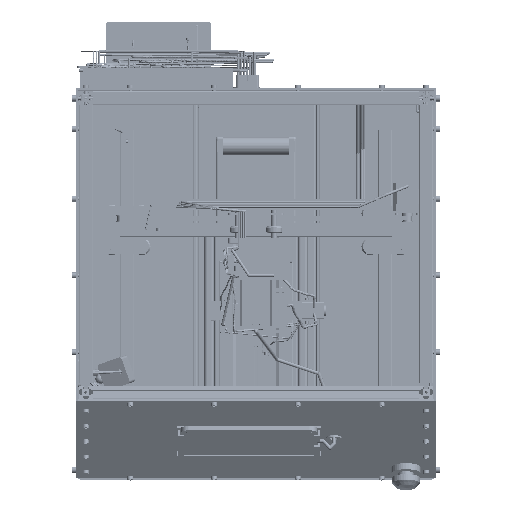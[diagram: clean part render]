
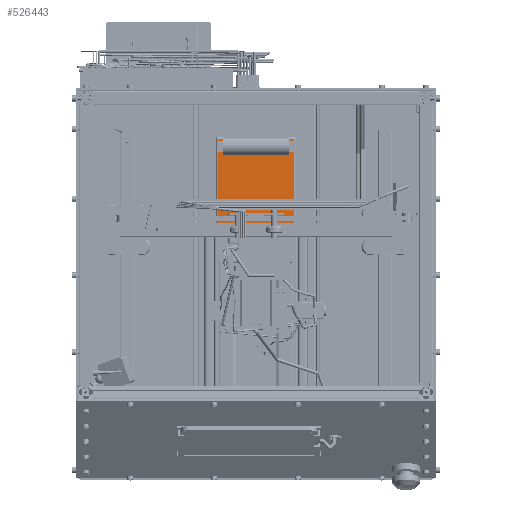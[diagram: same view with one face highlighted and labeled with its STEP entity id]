
A CAD part, top view. The second image highlights one B-rep face of the part: STEP entity #526443.
In plain terms, the highlighted planar face has unit normal (0, 0, 1).
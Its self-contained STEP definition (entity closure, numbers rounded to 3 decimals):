
#525852 = CYLINDRICAL_SURFACE('',#525853,4.);
#525853 = AXIS2_PLACEMENT_3D('',#525854,#525855,#525856);
#525854 = CARTESIAN_POINT('',(-54.,60.,32.));
#525855 = DIRECTION('',(0.,1.,0.));
#525856 = DIRECTION('',(-1.,0.,0.));
#526039 = VERTEX_POINT('',#526040);
#526040 = CARTESIAN_POINT('',(-54.,64.,36.));
#526062 = EDGE_CURVE('',#526039,#526063,#526065,.T.);
#526063 = VERTEX_POINT('',#526064);
#526064 = CARTESIAN_POINT('',(-54.,186.,36.));
#526065 = SURFACE_CURVE('',#526066,(#526070,#526077),.PCURVE_S1.);
#526066 = LINE('',#526067,#526068);
#526067 = CARTESIAN_POINT('',(-54.,60.,36.));
#526068 = VECTOR('',#526069,1.);
#526069 = DIRECTION('',(0.,1.,0.));
#526070 = PCURVE('',#525852,#526071);
#526071 = DEFINITIONAL_REPRESENTATION('',(#526072),#526076);
#526072 = LINE('',#526073,#526074);
#526073 = CARTESIAN_POINT('',(1.571,0.));
#526074 = VECTOR('',#526075,1.);
#526075 = DIRECTION('',(0.,1.));
#526076 = ( GEOMETRIC_REPRESENTATION_CONTEXT(2) 
PARAMETRIC_REPRESENTATION_CONTEXT() REPRESENTATION_CONTEXT('2D SPACE',''
  ) );
#526077 = PCURVE('',#526078,#526083);
#526078 = PLANE('',#526079);
#526079 = AXIS2_PLACEMENT_3D('',#526080,#526081,#526082);
#526080 = CARTESIAN_POINT('',(-58.,60.,36.));
#526081 = DIRECTION('',(0.,0.,1.));
#526082 = DIRECTION('',(1.,0.,0.));
#526083 = DEFINITIONAL_REPRESENTATION('',(#526084),#526088);
#526084 = LINE('',#526085,#526086);
#526085 = CARTESIAN_POINT('',(4.,0.));
#526086 = VECTOR('',#526087,1.);
#526087 = DIRECTION('',(0.,1.));
#526088 = ( GEOMETRIC_REPRESENTATION_CONTEXT(2) 
PARAMETRIC_REPRESENTATION_CONTEXT() REPRESENTATION_CONTEXT('2D SPACE',''
  ) );
#526247 = CYLINDRICAL_SURFACE('',#526248,4.);
#526248 = AXIS2_PLACEMENT_3D('',#526249,#526250,#526251);
#526249 = CARTESIAN_POINT('',(-58.,64.,32.));
#526250 = DIRECTION('',(1.,0.,0.));
#526251 = DIRECTION('',(0.,-1.,0.));
#526443 = ADVANCED_FACE('',(#526444),#526078,.T.);
#526444 = FACE_BOUND('',#526445,.T.);
#526445 = EDGE_LOOP('',(#526446,#526447,#526470,#526498));
#526446 = ORIENTED_EDGE('',*,*,#526062,.F.);
#526447 = ORIENTED_EDGE('',*,*,#526448,.T.);
#526448 = EDGE_CURVE('',#526039,#526449,#526451,.T.);
#526449 = VERTEX_POINT('',#526450);
#526450 = CARTESIAN_POINT('',(54.,64.,36.));
#526451 = SURFACE_CURVE('',#526452,(#526456,#526463),.PCURVE_S1.);
#526452 = LINE('',#526453,#526454);
#526453 = CARTESIAN_POINT('',(-58.,64.,36.));
#526454 = VECTOR('',#526455,1.);
#526455 = DIRECTION('',(1.,0.,0.));
#526456 = PCURVE('',#526078,#526457);
#526457 = DEFINITIONAL_REPRESENTATION('',(#526458),#526462);
#526458 = LINE('',#526459,#526460);
#526459 = CARTESIAN_POINT('',(0.,4.));
#526460 = VECTOR('',#526461,1.);
#526461 = DIRECTION('',(1.,0.));
#526462 = ( GEOMETRIC_REPRESENTATION_CONTEXT(2) 
PARAMETRIC_REPRESENTATION_CONTEXT() REPRESENTATION_CONTEXT('2D SPACE',''
  ) );
#526463 = PCURVE('',#526247,#526464);
#526464 = DEFINITIONAL_REPRESENTATION('',(#526465),#526469);
#526465 = LINE('',#526466,#526467);
#526466 = CARTESIAN_POINT('',(-1.571,0.));
#526467 = VECTOR('',#526468,1.);
#526468 = DIRECTION('',(-0.,1.));
#526469 = ( GEOMETRIC_REPRESENTATION_CONTEXT(2) 
PARAMETRIC_REPRESENTATION_CONTEXT() REPRESENTATION_CONTEXT('2D SPACE',''
  ) );
#526470 = ORIENTED_EDGE('',*,*,#526471,.T.);
#526471 = EDGE_CURVE('',#526449,#526472,#526474,.T.);
#526472 = VERTEX_POINT('',#526473);
#526473 = CARTESIAN_POINT('',(54.,186.,36.));
#526474 = SURFACE_CURVE('',#526475,(#526479,#526486),.PCURVE_S1.);
#526475 = LINE('',#526476,#526477);
#526476 = CARTESIAN_POINT('',(54.,60.,36.));
#526477 = VECTOR('',#526478,1.);
#526478 = DIRECTION('',(0.,1.,0.));
#526479 = PCURVE('',#526078,#526480);
#526480 = DEFINITIONAL_REPRESENTATION('',(#526481),#526485);
#526481 = LINE('',#526482,#526483);
#526482 = CARTESIAN_POINT('',(112.,0.));
#526483 = VECTOR('',#526484,1.);
#526484 = DIRECTION('',(0.,1.));
#526485 = ( GEOMETRIC_REPRESENTATION_CONTEXT(2) 
PARAMETRIC_REPRESENTATION_CONTEXT() REPRESENTATION_CONTEXT('2D SPACE',''
  ) );
#526486 = PCURVE('',#526487,#526492);
#526487 = CYLINDRICAL_SURFACE('',#526488,4.);
#526488 = AXIS2_PLACEMENT_3D('',#526489,#526490,#526491);
#526489 = CARTESIAN_POINT('',(54.,60.,32.));
#526490 = DIRECTION('',(0.,1.,0.));
#526491 = DIRECTION('',(1.,0.,-0.));
#526492 = DEFINITIONAL_REPRESENTATION('',(#526493),#526497);
#526493 = LINE('',#526494,#526495);
#526494 = CARTESIAN_POINT('',(-1.571,0.));
#526495 = VECTOR('',#526496,1.);
#526496 = DIRECTION('',(-0.,1.));
#526497 = ( GEOMETRIC_REPRESENTATION_CONTEXT(2) 
PARAMETRIC_REPRESENTATION_CONTEXT() REPRESENTATION_CONTEXT('2D SPACE',''
  ) );
#526498 = ORIENTED_EDGE('',*,*,#526499,.F.);
#526499 = EDGE_CURVE('',#526063,#526472,#526500,.T.);
#526500 = SURFACE_CURVE('',#526501,(#526505,#526512),.PCURVE_S1.);
#526501 = LINE('',#526502,#526503);
#526502 = CARTESIAN_POINT('',(-58.,186.,36.));
#526503 = VECTOR('',#526504,1.);
#526504 = DIRECTION('',(1.,0.,0.));
#526505 = PCURVE('',#526078,#526506);
#526506 = DEFINITIONAL_REPRESENTATION('',(#526507),#526511);
#526507 = LINE('',#526508,#526509);
#526508 = CARTESIAN_POINT('',(0.,126.));
#526509 = VECTOR('',#526510,1.);
#526510 = DIRECTION('',(1.,0.));
#526511 = ( GEOMETRIC_REPRESENTATION_CONTEXT(2) 
PARAMETRIC_REPRESENTATION_CONTEXT() REPRESENTATION_CONTEXT('2D SPACE',''
  ) );
#526512 = PCURVE('',#526513,#526518);
#526513 = CYLINDRICAL_SURFACE('',#526514,4.);
#526514 = AXIS2_PLACEMENT_3D('',#526515,#526516,#526517);
#526515 = CARTESIAN_POINT('',(-58.,186.,32.));
#526516 = DIRECTION('',(1.,0.,0.));
#526517 = DIRECTION('',(-0.,1.,0.));
#526518 = DEFINITIONAL_REPRESENTATION('',(#526519),#526523);
#526519 = LINE('',#526520,#526521);
#526520 = CARTESIAN_POINT('',(1.571,0.));
#526521 = VECTOR('',#526522,1.);
#526522 = DIRECTION('',(0.,1.));
#526523 = ( GEOMETRIC_REPRESENTATION_CONTEXT(2) 
PARAMETRIC_REPRESENTATION_CONTEXT() REPRESENTATION_CONTEXT('2D SPACE',''
  ) );
